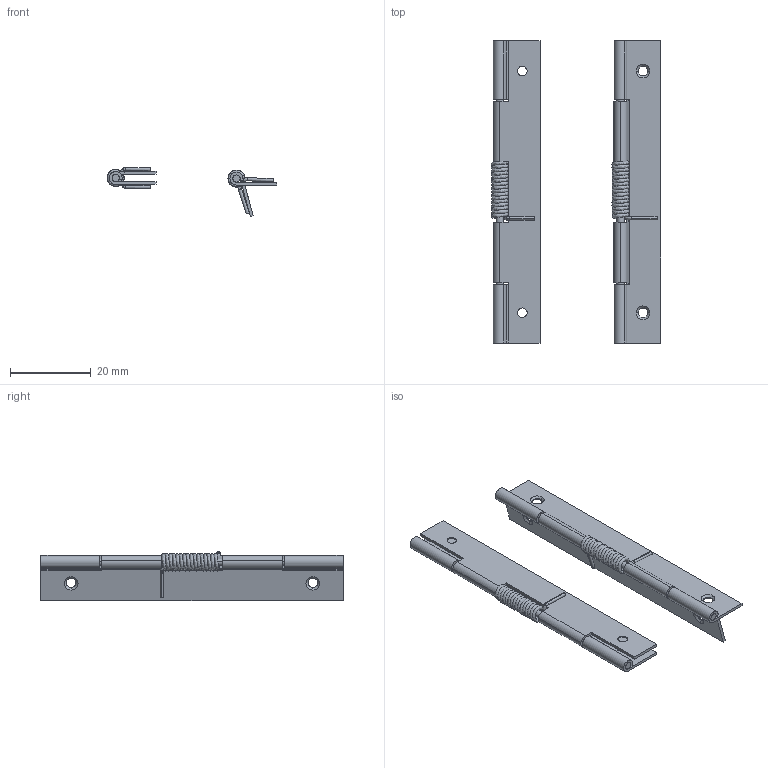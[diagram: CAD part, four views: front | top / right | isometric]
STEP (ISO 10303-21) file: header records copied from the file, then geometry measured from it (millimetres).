
FILE_DESCRIPTION((''),'2;1');
FILE_NAME('6062.stp','2013-11-25T14:12:04',(''),(''),'Mechanical Desktop 2006','Mechanical Desktop 2006',', , ');
FILE_SCHEMA(('CONFIG_CONTROL_DESIGN'));
Length unit declared in the file: millimetre
Products named in the file (9): 6062; DREHFEDERN - 0.800000 X 4.200000 X 16.000000; ~TEIL1; ~TEIL2; ~TEIL3; ~~TEIL3; ~~TEIL2; ~DREHFEDERN - 0.800000 X 4.200000 X 16.000000; ~~TEIL1
Assembly tree (8 placements, depth 2):
  6062
    DREHFEDERN - 0.800000 X 4.200000 X 16.000000
    ~TEIL1
    ~TEIL2
    ~TEIL3
    ~~TEIL3
    ~~TEIL2
    ~DREHFEDERN - 0.800000 X 4.200000 X 16.000000
    ~~TEIL1
Bounding box: 42.07 x 75 x 12.2 mm (x, y, z)
Volume: 2884.4 mm3; surface area: 9028.6 mm2
Topology: 8 solids, 8 shells, 160 faces, 405 edges, 261 vertices
Faces by surface type: cylinder 76, plane 56, cone 16, bspline 8, torus 4
Entity records: 21022 total; most frequent: CARTESIAN_POINT 16803, DIRECTION 902, ORIENTED_EDGE 810, EDGE_CURVE 405, AXIS2_PLACEMENT_3D 345, VERTEX_POINT 261, VECTOR 212, LINE 212
